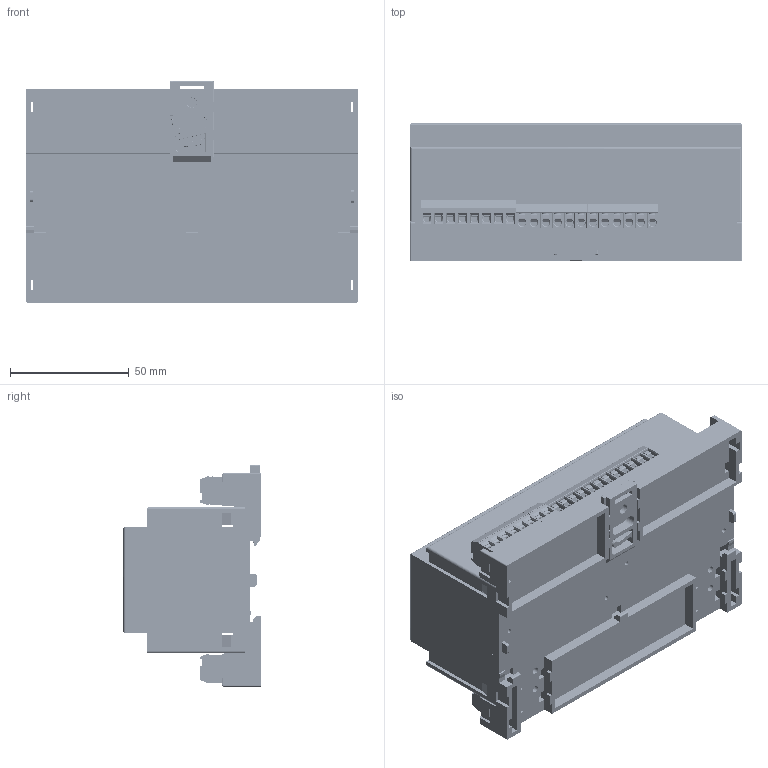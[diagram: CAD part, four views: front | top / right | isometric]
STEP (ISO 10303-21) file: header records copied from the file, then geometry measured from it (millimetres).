
FILE_DESCRIPTION (( 'STEP AP214' ), '1' );
FILE_NAME ('12360-1903-00_TR400_3D.STEP', '2013-12-17T10:12:13', ( '' ), ( '' ), 'SwSTEP 2.0', 'SolidWorks 2014', '' );
FILE_SCHEMA (( 'AUTOMOTIVE_DESIGN' ));
Length unit declared in the file: millimetre
Products named in the file (19): Lumberg_2410_06; Frontplatte_TR600; 31137106; 31137103; 31137102; 31007103; V8_Unterteil; 12360-1903-00_TR400_3D; V-Riegel_3D; TS_TR400_12360-1202-00_3D; V8_Oberteil; V8_Leiterplatte
Assembly tree (19 placements, depth 2):
  12360-1903-00_TR400_3D
    V8_Unterteil
    31007103
    31137102
    31137103  x2
    31137106
    Frontplatte_TR600
    Lumberg_2410_06
    V8_Leiterplatte
    V8_Oberteil
    TS_TR400_12360-1202-00_3D
    31007103
    31007103
    31007103
    31137103
    31137103
    31137103
    31137103
    V-Riegel_3D
Bounding box: 140 x 58 x 93.34 mm (x, y, z)
Volume: 125119.4 mm3; surface area: 156955.8 mm2
Topology: 817 solids, 823 shells, 13400 faces, 34750 edges, 22948 vertices
Faces by surface type: plane 10210, bspline 1572, cylinder 1277, cone 260, torus 67, sphere 14
Full cylindrical faces by diameter (mm): 0.2 x20, 1.3 x1, 1.5 x30, 1.7 x1, 1.8 x4, 1.9 x12, 2 x42, 2.25 x26, 2.4 x26, 2.7 x26, 2.8 x13, 3 x70, 3.5 x4, 3.9 x26, 4.2 x1, 4.5 x4
Entity records: 455961 total; most frequent: CARTESIAN_POINT 131339, ORIENTED_EDGE 65958, DIRECTION 55132, EDGE_CURVE 33007, VECTOR 25740, LINE 25740, VERTEX_POINT 22050, AXIS2_PLACEMENT_3D 14696
